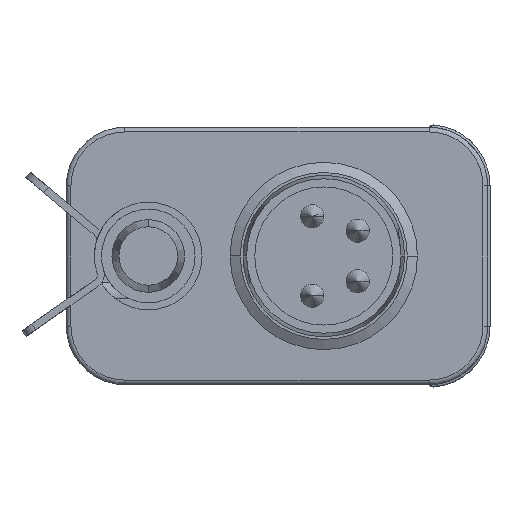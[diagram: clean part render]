
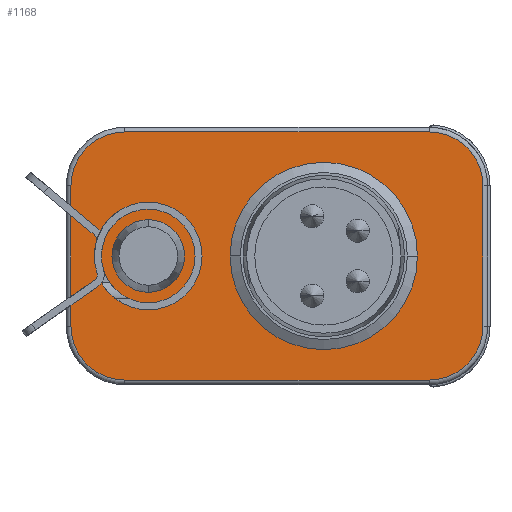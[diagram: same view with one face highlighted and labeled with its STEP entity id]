
A CAD part, left-side view. The second image highlights one B-rep face of the part: STEP entity #1168.
In plain terms, the highlighted planar face has unit normal (-1, 0, 0).
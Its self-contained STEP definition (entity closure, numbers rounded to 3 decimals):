
#37 = LINE ( 'NONE', #9034, #2281 ) ;
#138 = ORIENTED_EDGE ( 'NONE', *, *, #8646, .T. ) ;
#140 = CARTESIAN_POINT ( 'NONE',  ( -78.03, -8.5, -5.3 ) ) ;
#332 = EDGE_CURVE ( 'NONE', #3500, #9103, #37, .T. ) ;
#379 = ORIENTED_EDGE ( 'NONE', *, *, #4894, .F. ) ;
#446 = DIRECTION ( 'NONE',  ( -1., 0., 0. ) ) ;
#688 = DIRECTION ( 'NONE',  ( 0., 0., -1. ) ) ;
#701 = LINE ( 'NONE', #6318, #7846 ) ;
#740 = CIRCLE ( 'NONE', #4295, 2.3 ) ;
#875 = DIRECTION ( 'NONE',  ( 0., 0., -1. ) ) ;
#1168 = ADVANCED_FACE ( 'NONE', ( #5573, #9711, #6662 ), #7470, .F. ) ;
#1246 = CARTESIAN_POINT ( 'NONE',  ( -78.03, 4.5, 5.3 ) ) ;
#1323 = EDGE_CURVE ( 'NONE', #4594, #3281, #4199, .T. ) ;
#1356 = CARTESIAN_POINT ( 'NONE',  ( -78.03, 7., 5.5 ) ) ;
#1619 = CIRCLE ( 'NONE', #3875, 1.25 ) ;
#1712 = DIRECTION ( 'NONE',  ( -1., 0., 0. ) ) ;
#1719 = AXIS2_PLACEMENT_3D ( 'NONE', #2798, #9814, #8290 ) ;
#1750 = CARTESIAN_POINT ( 'NONE',  ( -78.03, -8.5, 3. ) ) ;
#1850 = CARTESIAN_POINT ( 'NONE',  ( -78.03, 4.5, -3. ) ) ;
#1957 = DIRECTION ( 'NONE',  ( -1., 0., 0. ) ) ;
#1998 = ORIENTED_EDGE ( 'NONE', *, *, #8393, .T. ) ;
#2001 = DIRECTION ( 'NONE',  ( 0., -1., 0. ) ) ;
#2161 = ORIENTED_EDGE ( 'NONE', *, *, #10139, .T. ) ;
#2178 = DIRECTION ( 'NONE',  ( 0., 0., -1. ) ) ;
#2188 = EDGE_CURVE ( 'NONE', #7145, #2412, #6176, .T. ) ;
#2281 = VECTOR ( 'NONE', #2001, 1000. ) ;
#2308 = CARTESIAN_POINT ( 'NONE',  ( -78.03, -8., 0. ) ) ;
#2332 = AXIS2_PLACEMENT_3D ( 'NONE', #1850, #5129, #4211 ) ;
#2353 = EDGE_CURVE ( 'NONE', #6574, #6532, #9690, .T. ) ;
#2412 = VERTEX_POINT ( 'NONE', #2497 ) ;
#2461 = CARTESIAN_POINT ( 'NONE',  ( -78.03, 6.8, -3. ) ) ;
#2497 = CARTESIAN_POINT ( 'NONE',  ( -78.03, 6.8, -3. ) ) ;
#2663 = AXIS2_PLACEMENT_3D ( 'NONE', #8364, #5848, #8916 ) ;
#2798 = CARTESIAN_POINT ( 'NONE',  ( -78.03, -4., 0. ) ) ;
#3129 = ORIENTED_EDGE ( 'NONE', *, *, #7640, .F. ) ;
#3252 = ORIENTED_EDGE ( 'NONE', *, *, #5677, .T. ) ;
#3281 = VERTEX_POINT ( 'NONE', #6677 ) ;
#3298 = CIRCLE ( 'NONE', #7352, 2.3 ) ;
#3324 = ORIENTED_EDGE ( 'NONE', *, *, #332, .T. ) ;
#3500 = VERTEX_POINT ( 'NONE', #6341 ) ;
#3752 = EDGE_CURVE ( 'NONE', #3281, #4594, #1619, .T. ) ;
#3815 = VECTOR ( 'NONE', #5460, 1000. ) ;
#3875 = AXIS2_PLACEMENT_3D ( 'NONE', #9760, #1957, #5105 ) ;
#3906 = CARTESIAN_POINT ( 'NONE',  ( -78.03, -8.5, -3. ) ) ;
#3971 = CARTESIAN_POINT ( 'NONE',  ( -78.03, 3.5, 1.25 ) ) ;
#4029 = EDGE_LOOP ( 'NONE', ( #3129, #379 ) ) ;
#4064 = CARTESIAN_POINT ( 'NONE',  ( -78.03, -10.8, 3. ) ) ;
#4085 = ORIENTED_EDGE ( 'NONE', *, *, #3752, .F. ) ;
#4199 = CIRCLE ( 'NONE', #2663, 1.25 ) ;
#4211 = DIRECTION ( 'NONE',  ( 0., 0., -1. ) ) ;
#4295 = AXIS2_PLACEMENT_3D ( 'NONE', #1750, #1712, #875 ) ;
#4413 = CARTESIAN_POINT ( 'NONE',  ( -78.03, 4.5, 3. ) ) ;
#4457 = DIRECTION ( 'NONE',  ( 0., 0., -1. ) ) ;
#4594 = VERTEX_POINT ( 'NONE', #3971 ) ;
#4617 = ORIENTED_EDGE ( 'NONE', *, *, #7253, .T. ) ;
#4670 = CARTESIAN_POINT ( 'NONE',  ( -78.03, -10.8, 3. ) ) ;
#4707 = DIRECTION ( 'NONE',  ( 0., 0., -1. ) ) ;
#4719 = DIRECTION ( 'NONE',  ( -1., 0., 0. ) ) ;
#4894 = EDGE_CURVE ( 'NONE', #6832, #6997, #9788, .T. ) ;
#4967 = AXIS2_PLACEMENT_3D ( 'NONE', #3906, #9395, #4707 ) ;
#5105 = DIRECTION ( 'NONE',  ( 0., 0., -1. ) ) ;
#5129 = DIRECTION ( 'NONE',  ( -1., 0., 0. ) ) ;
#5460 = DIRECTION ( 'NONE',  ( 0., 0., -1. ) ) ;
#5483 = EDGE_LOOP ( 'NONE', ( #2161, #4617, #3252, #10096, #138, #3324, #1998, #10075 ) ) ;
#5573 = FACE_BOUND ( 'NONE', #4029, .T. ) ;
#5677 = EDGE_CURVE ( 'NONE', #7476, #7145, #3298, .T. ) ;
#5735 = CARTESIAN_POINT ( 'NONE',  ( -78.03, -8.5, 5.3 ) ) ;
#5760 = DIRECTION ( 'NONE',  ( 0., 0., 1. ) ) ;
#5848 = DIRECTION ( 'NONE',  ( -1., 0., 0. ) ) ;
#6176 = LINE ( 'NONE', #2461, #3815 ) ;
#6318 = CARTESIAN_POINT ( 'NONE',  ( -78.03, 4.5, 5.3 ) ) ;
#6341 = CARTESIAN_POINT ( 'NONE',  ( -78.03, 4.5, -5.3 ) ) ;
#6532 = VERTEX_POINT ( 'NONE', #4670 ) ;
#6574 = VERTEX_POINT ( 'NONE', #7205 ) ;
#6662 = FACE_OUTER_BOUND ( 'NONE', #5483, .T. ) ;
#6677 = CARTESIAN_POINT ( 'NONE',  ( -78.03, 3.5, -1.25 ) ) ;
#6832 = VERTEX_POINT ( 'NONE', #2308 ) ;
#6997 = VERTEX_POINT ( 'NONE', #7098 ) ;
#7098 = CARTESIAN_POINT ( 'NONE',  ( -78.03, 0., 0. ) ) ;
#7145 = VERTEX_POINT ( 'NONE', #10024 ) ;
#7205 = CARTESIAN_POINT ( 'NONE',  ( -78.03, -10.8, -3. ) ) ;
#7253 = EDGE_CURVE ( 'NONE', #7358, #7476, #701, .T. ) ;
#7352 = AXIS2_PLACEMENT_3D ( 'NONE', #4413, #446, #4457 ) ;
#7358 = VERTEX_POINT ( 'NONE', #5735 ) ;
#7470 = PLANE ( 'NONE',  #9821 ) ;
#7476 = VERTEX_POINT ( 'NONE', #1246 ) ;
#7543 = EDGE_LOOP ( 'NONE', ( #4085, #8336 ) ) ;
#7550 = CIRCLE ( 'NONE', #9408, 4. ) ;
#7627 = VECTOR ( 'NONE', #5760, 1000. ) ;
#7640 = EDGE_CURVE ( 'NONE', #6997, #6832, #7550, .T. ) ;
#7782 = DIRECTION ( 'NONE',  ( 1., 0., 0. ) ) ;
#7846 = VECTOR ( 'NONE', #7988, 1000. ) ;
#7988 = DIRECTION ( 'NONE',  ( 0., 1., 0. ) ) ;
#8290 = DIRECTION ( 'NONE',  ( 0., 0., -1. ) ) ;
#8336 = ORIENTED_EDGE ( 'NONE', *, *, #1323, .F. ) ;
#8364 = CARTESIAN_POINT ( 'NONE',  ( -78.03, 3.5, 0. ) ) ;
#8393 = EDGE_CURVE ( 'NONE', #9103, #6574, #8799, .T. ) ;
#8536 = CARTESIAN_POINT ( 'NONE',  ( -78.03, -4., 0. ) ) ;
#8646 = EDGE_CURVE ( 'NONE', #2412, #3500, #9754, .T. ) ;
#8799 = CIRCLE ( 'NONE', #4967, 2.3 ) ;
#8916 = DIRECTION ( 'NONE',  ( 0., 0., -1. ) ) ;
#9034 = CARTESIAN_POINT ( 'NONE',  ( -78.03, -8.5, -5.3 ) ) ;
#9103 = VERTEX_POINT ( 'NONE', #140 ) ;
#9395 = DIRECTION ( 'NONE',  ( -1., 0., 0. ) ) ;
#9408 = AXIS2_PLACEMENT_3D ( 'NONE', #8536, #4719, #688 ) ;
#9690 = LINE ( 'NONE', #4064, #7627 ) ;
#9711 = FACE_BOUND ( 'NONE', #7543, .T. ) ;
#9754 = CIRCLE ( 'NONE', #2332, 2.3 ) ;
#9760 = CARTESIAN_POINT ( 'NONE',  ( -78.03, 3.5, 0. ) ) ;
#9788 = CIRCLE ( 'NONE', #1719, 4. ) ;
#9814 = DIRECTION ( 'NONE',  ( -1., 0., 0. ) ) ;
#9821 = AXIS2_PLACEMENT_3D ( 'NONE', #1356, #7782, #2178 ) ;
#10024 = CARTESIAN_POINT ( 'NONE',  ( -78.03, 6.8, 3. ) ) ;
#10075 = ORIENTED_EDGE ( 'NONE', *, *, #2353, .T. ) ;
#10096 = ORIENTED_EDGE ( 'NONE', *, *, #2188, .T. ) ;
#10139 = EDGE_CURVE ( 'NONE', #6532, #7358, #740, .T. ) ;
